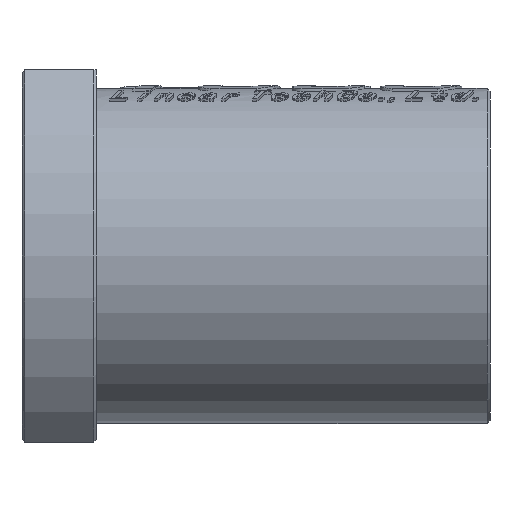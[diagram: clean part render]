
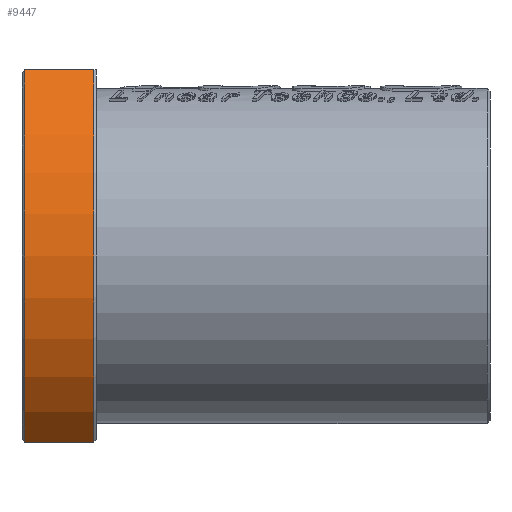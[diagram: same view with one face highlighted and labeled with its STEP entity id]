
A CAD part, front view. The second image highlights one B-rep face of the part: STEP entity #9447.
In plain terms, the highlighted cylindrical face has radius 46.5 mm (diameter 93 mm), a partial arc.
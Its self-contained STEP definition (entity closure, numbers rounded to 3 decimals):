
#40 = VECTOR ( 'NONE', #10314, 1000. ) ;
#555 = DIRECTION ( 'NONE',  ( -1., 0., 0. ) ) ;
#762 = VERTEX_POINT ( 'NONE', #2403 ) ;
#1429 = CARTESIAN_POINT ( 'NONE',  ( -131.091, -5.534, -14.191 ) ) ;
#2403 = CARTESIAN_POINT ( 'NONE',  ( -118.091, -5.534, -14.191 ) ) ;
#6156 = CARTESIAN_POINT ( 'NONE',  ( -118.091, 25.081, 20.809 ) ) ;
#6287 = VECTOR ( 'NONE', #555, 1000. ) ;
#6571 = EDGE_LOOP ( 'NONE', ( #22149, #26451, #26124, #18874 ) ) ;
#8317 = AXIS2_PLACEMENT_3D ( 'NONE', #26454, #12026, #28673 ) ;
#9447 = ADVANCED_FACE ( 'NONE', ( #21199 ), #28184, .T. ) ;
#9867 = CARTESIAN_POINT ( 'NONE',  ( -118.091, -5.534, 55.809 ) ) ;
#10314 = DIRECTION ( 'NONE',  ( 1., 0., 0. ) ) ;
#10764 = DIRECTION ( 'NONE',  ( 0., 0., 1. ) ) ;
#12026 = DIRECTION ( 'NONE',  ( 1., 0., 0. ) ) ;
#13601 = EDGE_CURVE ( 'NONE', #20082, #30325, #27540, .T. ) ;
#14607 = LINE ( 'NONE', #27276, #40 ) ;
#14709 = CARTESIAN_POINT ( 'NONE',  ( -131.091, -5.534, 55.809 ) ) ;
#14990 = LINE ( 'NONE', #24656, #6287 ) ;
#15380 = EDGE_CURVE ( 'NONE', #762, #30325, #14990, .T. ) ;
#16292 = DIRECTION ( 'NONE',  ( -1., 0., 0. ) ) ;
#16961 = EDGE_CURVE ( 'NONE', #20082, #25868, #14607, .T. ) ;
#18874 = ORIENTED_EDGE ( 'NONE', *, *, #13601, .T. ) ;
#19564 = AXIS2_PLACEMENT_3D ( 'NONE', #6156, #30413, #10764 ) ;
#20073 = CIRCLE ( 'NONE', #19564, 46.5 ) ;
#20082 = VERTEX_POINT ( 'NONE', #14709 ) ;
#21199 = FACE_OUTER_BOUND ( 'NONE', #6571, .T. ) ;
#21651 = EDGE_CURVE ( 'NONE', #762, #25868, #20073, .T. ) ;
#22149 = ORIENTED_EDGE ( 'NONE', *, *, #15380, .F. ) ;
#24159 = DIRECTION ( 'NONE',  ( 0., 0., 1. ) ) ;
#24656 = CARTESIAN_POINT ( 'NONE',  ( -131.591, -5.534, -14.191 ) ) ;
#25868 = VERTEX_POINT ( 'NONE', #9867 ) ;
#26124 = ORIENTED_EDGE ( 'NONE', *, *, #16961, .F. ) ;
#26451 = ORIENTED_EDGE ( 'NONE', *, *, #21651, .T. ) ;
#26454 = CARTESIAN_POINT ( 'NONE',  ( -131.091, 25.081, 20.809 ) ) ;
#27276 = CARTESIAN_POINT ( 'NONE',  ( -131.591, -5.534, 55.809 ) ) ;
#27540 = CIRCLE ( 'NONE', #8317, 46.5 ) ;
#28184 = CYLINDRICAL_SURFACE ( 'NONE', #29307, 46.5 ) ;
#28673 = DIRECTION ( 'NONE',  ( 0., 0., -1. ) ) ;
#29307 = AXIS2_PLACEMENT_3D ( 'NONE', #30422, #16292, #24159 ) ;
#30325 = VERTEX_POINT ( 'NONE', #1429 ) ;
#30413 = DIRECTION ( 'NONE',  ( -1., 0., 0. ) ) ;
#30422 = CARTESIAN_POINT ( 'NONE',  ( -131.591, 25.081, 20.809 ) ) ;
